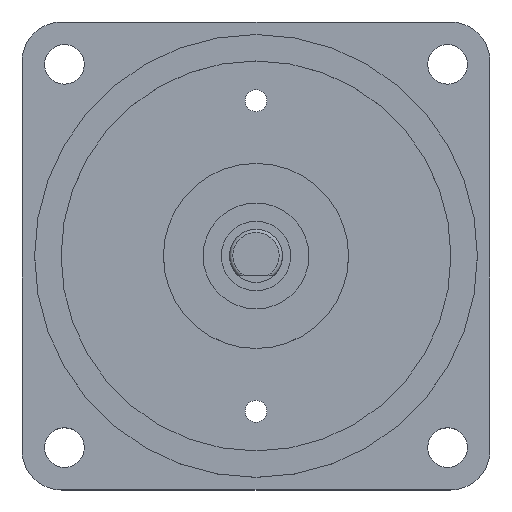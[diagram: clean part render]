
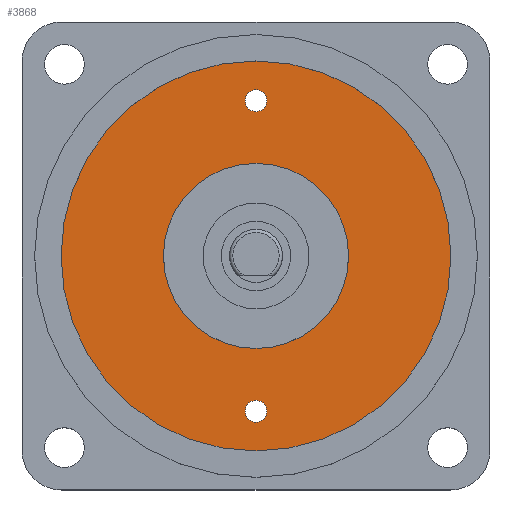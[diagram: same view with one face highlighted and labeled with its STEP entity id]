
A CAD part, top view. The second image highlights one B-rep face of the part: STEP entity #3868.
In plain terms, the highlighted planar face has unit normal (0, 0, 1) as drawn and (0, 1, 0) by its records, which use the part's own axes.
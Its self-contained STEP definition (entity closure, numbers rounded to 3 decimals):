
#52 = EDGE_CURVE ( 'NONE', #290, #5182, #3365, .T. ) ;
#66 = EDGE_CURVE ( 'NONE', #5388, #480, #612, .T. ) ;
#256 = CIRCLE ( 'NONE', #3126, 29.5 ) ;
#290 = VERTEX_POINT ( 'NONE', #4987 ) ;
#318 = FACE_OUTER_BOUND ( 'NONE', #4016, .T. ) ;
#427 = AXIS2_PLACEMENT_3D ( 'NONE', #3748, #2974, #479 ) ;
#431 = AXIS2_PLACEMENT_3D ( 'NONE', #2576, #4075, #3153 ) ;
#477 = DIRECTION ( 'NONE',  ( 0., -1., 0. ) ) ;
#479 = DIRECTION ( 'NONE',  ( 0., 0., -1. ) ) ;
#480 = VERTEX_POINT ( 'NONE', #1901 ) ;
#552 = EDGE_CURVE ( 'NONE', #6197, #4259, #4400, .T. ) ;
#612 = CIRCLE ( 'NONE', #5969, 14. ) ;
#767 = DIRECTION ( 'NONE',  ( 0., 0., 1. ) ) ;
#893 = ORIENTED_EDGE ( 'NONE', *, *, #2719, .T. ) ;
#1008 = DIRECTION ( 'NONE',  ( 0., -1., 0. ) ) ;
#1073 = DIRECTION ( 'NONE',  ( 0., 1., 0. ) ) ;
#1134 = DIRECTION ( 'NONE',  ( 0., -1., 0. ) ) ;
#1424 = AXIS2_PLACEMENT_3D ( 'NONE', #3039, #1073, #3584 ) ;
#1604 = FACE_BOUND ( 'NONE', #3085, .T. ) ;
#1615 = CARTESIAN_POINT ( 'NONE',  ( 0., 10.3, 23.5 ) ) ;
#1660 = CARTESIAN_POINT ( 'NONE',  ( 0., 10.3, 29.5 ) ) ;
#1676 = DIRECTION ( 'NONE',  ( 0., 0., -1. ) ) ;
#1768 = CIRCLE ( 'NONE', #5409, 14. ) ;
#1781 = CARTESIAN_POINT ( 'NONE',  ( 0., 10.3, 0. ) ) ;
#1901 = CARTESIAN_POINT ( 'NONE',  ( 0., 10.3, -14. ) ) ;
#1978 = ORIENTED_EDGE ( 'NONE', *, *, #552, .T. ) ;
#2019 = AXIS2_PLACEMENT_3D ( 'NONE', #2577, #1134, #3096 ) ;
#2030 = PLANE ( 'NONE',  #1424 ) ;
#2261 = FACE_BOUND ( 'NONE', #2289, .T. ) ;
#2289 = EDGE_LOOP ( 'NONE', ( #4401, #5330 ) ) ;
#2416 = DIRECTION ( 'NONE',  ( 0., 0., 1. ) ) ;
#2576 = CARTESIAN_POINT ( 'NONE',  ( 0., 10.3, -23.5 ) ) ;
#2577 = CARTESIAN_POINT ( 'NONE',  ( 0., 10.3, -23.5 ) ) ;
#2578 = EDGE_LOOP ( 'NONE', ( #1978, #5769 ) ) ;
#2580 = CIRCLE ( 'NONE', #431, 1.65 ) ;
#2665 = ORIENTED_EDGE ( 'NONE', *, *, #6317, .T. ) ;
#2716 = DIRECTION ( 'NONE',  ( 0., 1., 0. ) ) ;
#2719 = EDGE_CURVE ( 'NONE', #5182, #290, #256, .T. ) ;
#2876 = CARTESIAN_POINT ( 'NONE',  ( 0., 10.3, 0. ) ) ;
#2974 = DIRECTION ( 'NONE',  ( 0., -1., 0. ) ) ;
#3039 = CARTESIAN_POINT ( 'NONE',  ( 0., 10.3, 0. ) ) ;
#3049 = EDGE_CURVE ( 'NONE', #480, #5388, #1768, .T. ) ;
#3085 = EDGE_LOOP ( 'NONE', ( #2665, #3686 ) ) ;
#3096 = DIRECTION ( 'NONE',  ( 0., 0., -1. ) ) ;
#3126 = AXIS2_PLACEMENT_3D ( 'NONE', #1781, #6334, #4705 ) ;
#3153 = DIRECTION ( 'NONE',  ( 0., 0., -1. ) ) ;
#3196 = CARTESIAN_POINT ( 'NONE',  ( 0., 10.3, 0. ) ) ;
#3202 = VERTEX_POINT ( 'NONE', #3434 ) ;
#3365 = CIRCLE ( 'NONE', #4616, 29.5 ) ;
#3434 = CARTESIAN_POINT ( 'NONE',  ( 0., 10.3, 25.15 ) ) ;
#3584 = DIRECTION ( 'NONE',  ( 0., 0., 1. ) ) ;
#3686 = ORIENTED_EDGE ( 'NONE', *, *, #6010, .T. ) ;
#3726 = VERTEX_POINT ( 'NONE', #6193 ) ;
#3748 = CARTESIAN_POINT ( 'NONE',  ( 0., 10.3, 23.5 ) ) ;
#3803 = CIRCLE ( 'NONE', #6013, 1.65 ) ;
#3868 = ADVANCED_FACE ( 'NONE', ( #318, #2261, #4983, #1604 ), #2030, .T. ) ;
#3874 = CARTESIAN_POINT ( 'NONE',  ( 0., 10.3, -25.15 ) ) ;
#4016 = EDGE_LOOP ( 'NONE', ( #893, #4078 ) ) ;
#4075 = DIRECTION ( 'NONE',  ( 0., -1., 0. ) ) ;
#4078 = ORIENTED_EDGE ( 'NONE', *, *, #52, .T. ) ;
#4259 = VERTEX_POINT ( 'NONE', #6391 ) ;
#4286 = CARTESIAN_POINT ( 'NONE',  ( 0., 10.3, 14. ) ) ;
#4400 = CIRCLE ( 'NONE', #2019, 1.65 ) ;
#4401 = ORIENTED_EDGE ( 'NONE', *, *, #66, .T. ) ;
#4616 = AXIS2_PLACEMENT_3D ( 'NONE', #3196, #2716, #767 ) ;
#4705 = DIRECTION ( 'NONE',  ( 0., 0., 1. ) ) ;
#4887 = CARTESIAN_POINT ( 'NONE',  ( 0., 10.3, 0. ) ) ;
#4983 = FACE_BOUND ( 'NONE', #2578, .T. ) ;
#4987 = CARTESIAN_POINT ( 'NONE',  ( 0., 10.3, -29.5 ) ) ;
#5093 = DIRECTION ( 'NONE',  ( 0., -1., 0. ) ) ;
#5182 = VERTEX_POINT ( 'NONE', #1660 ) ;
#5236 = EDGE_CURVE ( 'NONE', #4259, #6197, #2580, .T. ) ;
#5330 = ORIENTED_EDGE ( 'NONE', *, *, #3049, .T. ) ;
#5388 = VERTEX_POINT ( 'NONE', #4286 ) ;
#5409 = AXIS2_PLACEMENT_3D ( 'NONE', #4887, #477, #2416 ) ;
#5769 = ORIENTED_EDGE ( 'NONE', *, *, #5236, .T. ) ;
#5969 = AXIS2_PLACEMENT_3D ( 'NONE', #2876, #1008, #6353 ) ;
#6000 = CIRCLE ( 'NONE', #427, 1.65 ) ;
#6010 = EDGE_CURVE ( 'NONE', #3202, #3726, #3803, .T. ) ;
#6013 = AXIS2_PLACEMENT_3D ( 'NONE', #1615, #5093, #1676 ) ;
#6193 = CARTESIAN_POINT ( 'NONE',  ( 0., 10.3, 21.85 ) ) ;
#6197 = VERTEX_POINT ( 'NONE', #3874 ) ;
#6317 = EDGE_CURVE ( 'NONE', #3726, #3202, #6000, .T. ) ;
#6334 = DIRECTION ( 'NONE',  ( 0., 1., 0. ) ) ;
#6353 = DIRECTION ( 'NONE',  ( 0., 0., 1. ) ) ;
#6391 = CARTESIAN_POINT ( 'NONE',  ( 0., 10.3, -21.85 ) ) ;
